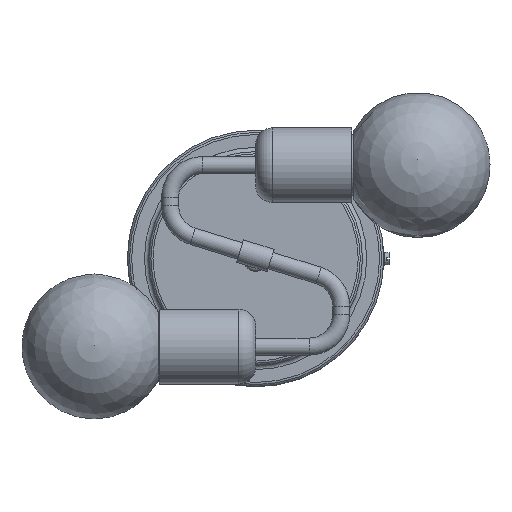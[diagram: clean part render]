
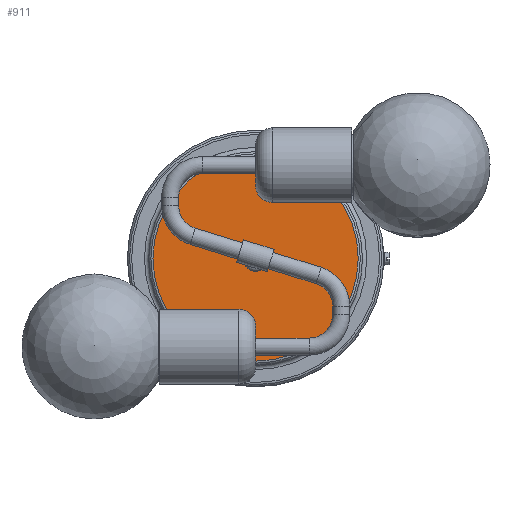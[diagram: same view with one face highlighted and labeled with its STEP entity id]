
A CAD part, top view. The second image highlights one B-rep face of the part: STEP entity #911.
In plain terms, the highlighted planar face has unit normal (0, 0, 1) as drawn and (0, -1, 0) by its records, which use the part's own axes.
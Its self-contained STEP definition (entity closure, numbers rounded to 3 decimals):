
#95=PLANE('',#1175);
#168=CIRCLE('',#1172,48.);
#169=CIRCLE('',#1173,48.);
#243=FACE_OUTER_BOUND('',#307,.T.);
#307=EDGE_LOOP('',(#703,#704));
#442=VERTEX_POINT('',#1802);
#443=VERTEX_POINT('',#1803);
#538=EDGE_CURVE('',#442,#443,#168,.T.);
#539=EDGE_CURVE('',#443,#442,#169,.T.);
#703=ORIENTED_EDGE('',*,*,#538,.T.);
#704=ORIENTED_EDGE('',*,*,#539,.T.);
#911=ADVANCED_FACE('',(#243),#95,.T.);
#1172=AXIS2_PLACEMENT_3D('',#1804,#1386,#1387);
#1173=AXIS2_PLACEMENT_3D('',#1805,#1388,#1389);
#1175=AXIS2_PLACEMENT_3D('',#1807,#1392,#1393);
#1386=DIRECTION('center_axis',(0.,-1.,0.));
#1387=DIRECTION('ref_axis',(1.,0.,0.));
#1388=DIRECTION('center_axis',(0.,-1.,0.));
#1389=DIRECTION('ref_axis',(1.,0.,0.));
#1392=DIRECTION('center_axis',(0.,-1.,0.));
#1393=DIRECTION('ref_axis',(0.,0.,-1.));
#1802=CARTESIAN_POINT('',(48.,0.,0.));
#1803=CARTESIAN_POINT('',(0.,0.,48.));
#1804=CARTESIAN_POINT('Origin',(0.,0.,0.));
#1805=CARTESIAN_POINT('Origin',(0.,0.,0.));
#1807=CARTESIAN_POINT('Origin',(0.,0.,0.));
